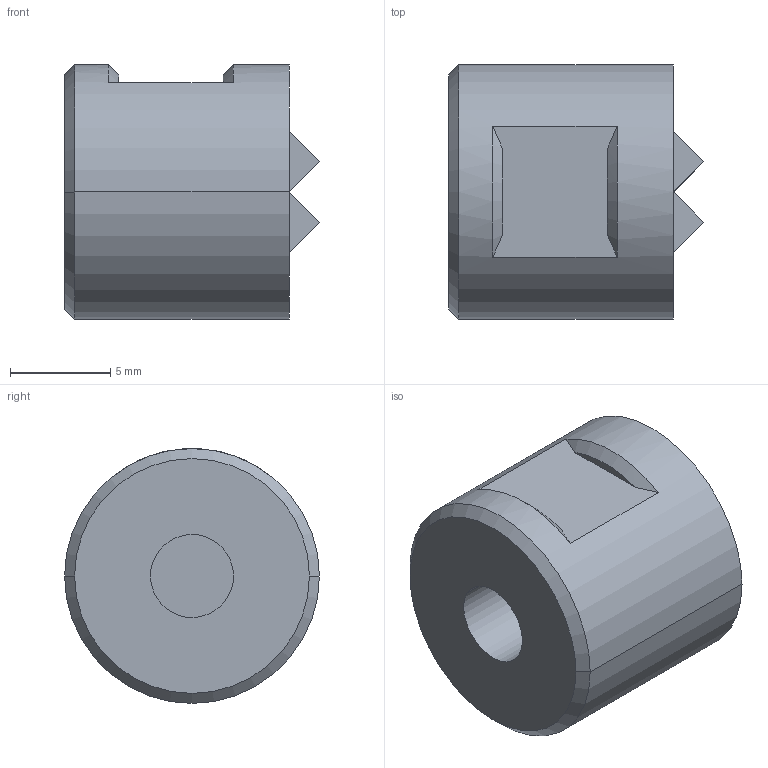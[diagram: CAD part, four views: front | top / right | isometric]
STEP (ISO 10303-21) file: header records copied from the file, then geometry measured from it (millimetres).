
FILE_DESCRIPTION(('CATIA V5 STEP Exchange'),'2;1');
FILE_NAME('\\kjf-102\KJF_TC\Hydraulic_Clamp\Standard\TOGGLE PAD\CP-32\CP-32_-.stp','2024-07-08T03:27:56+00:00',('none'),('none'),'CATIA Version 5 Release 19 SP 9 (IN-10)','CATIA V5 STEP AP214','none');
FILE_SCHEMA(('AUTOMOTIVE_DESIGN { 1 0 10303 214 1 1 1 1 }'));
Length unit declared in the file: millimetre
Products named in the file (1): CP-32_-
Bounding box: 12.7 x 12.7 x 12.7 mm (x, y, z)
Volume: 1302.4 mm3; surface area: 809.8 mm2
Topology: 1 solids, 1 shells, 30 faces, 56 edges, 31 vertices
Faces by surface type: plane 22, cone 4, cylinder 4
Entity records: 707 total; most frequent: CARTESIAN_POINT 128, ORIENTED_EDGE 112, DIRECTION 92, EDGE_CURVE 56, VECTOR 38, LINE 38, AXIS2_PLACEMENT_3D 35, EDGE_LOOP 33
